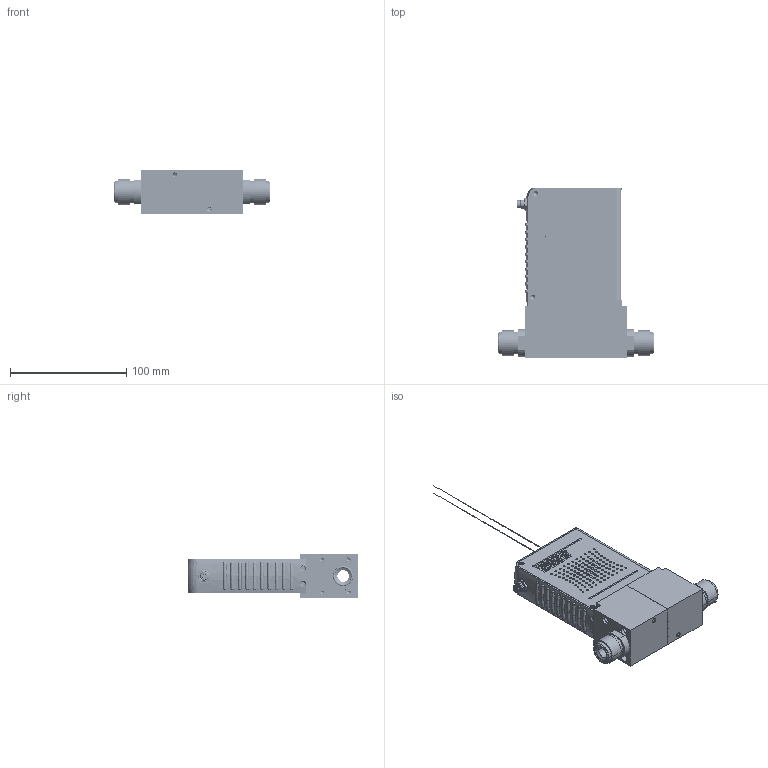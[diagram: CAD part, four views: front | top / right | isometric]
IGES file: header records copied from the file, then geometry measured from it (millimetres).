
Start section: SolidWorks IGES file using analytic representation for surfaces
Global section: file name: G:\Engineering\CAD MODELS FOR SALES\CAD MODEL STORAGE\GF\GF101-121-126\CUSTOMER FILES\IGES\GF101-GF121-GF126-V1-E0.IGS; native system: SolidWorks 2020; preprocessor: SolidWorks 2020; author: CFehr; date: 230123.141232; units: inch
Bounding box: 134.21 x 285.37 x 37.59 mm (x, y, z)
Volume: 108024.1 mm3; surface area: 103063.8 mm2
Topology: 160 solids, 160 shells, 6168 faces, 31464 edges, 28709 vertices
Faces by surface type: bspline 3109, revolution 1616, plane 1443
